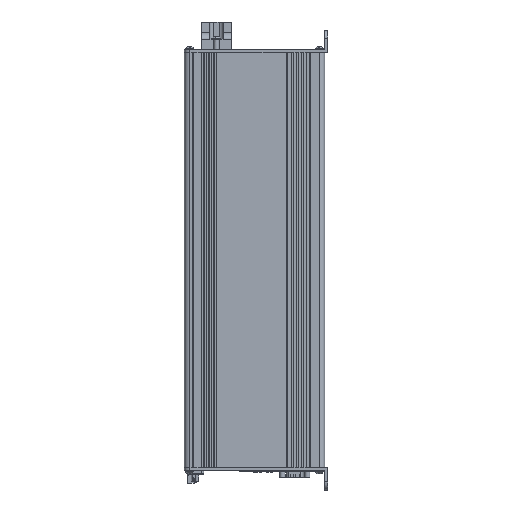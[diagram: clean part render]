
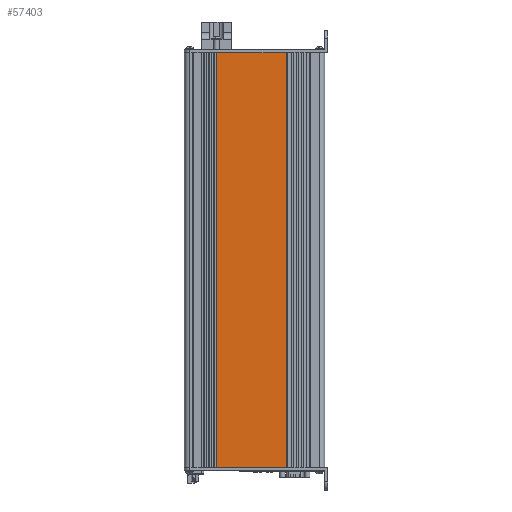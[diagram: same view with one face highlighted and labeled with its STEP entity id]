
A CAD part, left-side view. The second image highlights one B-rep face of the part: STEP entity #57403.
In plain terms, the highlighted planar face has unit normal (-1, 0, 0).
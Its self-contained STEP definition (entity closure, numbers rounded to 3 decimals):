
#7969=FACE_OUTER_BOUND('',#11005,.T.);
#11005=EDGE_LOOP('',(#50559,#50560,#50561,#50562));
#14969=LINE('',#109785,#19452);
#15279=LINE('',#110637,#19762);
#15494=LINE('',#111195,#19977);
#15495=LINE('',#111197,#19978);
#19452=VECTOR('',#72873,0.394);
#19762=VECTOR('',#73639,0.394);
#19977=VECTOR('',#74190,0.394);
#19978=VECTOR('',#74193,0.394);
#25704=VERTEX_POINT('',#109782);
#25705=VERTEX_POINT('',#109784);
#26018=VERTEX_POINT('',#110634);
#26019=VERTEX_POINT('',#110636);
#33692=EDGE_CURVE('',#25705,#25704,#14969,.T.);
#34123=EDGE_CURVE('',#26018,#26019,#15279,.T.);
#34406=EDGE_CURVE('',#25704,#26019,#15494,.T.);
#34407=EDGE_CURVE('',#25705,#26018,#15495,.T.);
#50559=ORIENTED_EDGE('',*,*,#33692,.T.);
#50560=ORIENTED_EDGE('',*,*,#34406,.T.);
#50561=ORIENTED_EDGE('',*,*,#34123,.F.);
#50562=ORIENTED_EDGE('',*,*,#34407,.F.);
#52742=PLANE('',#61638);
#57403=ADVANCED_FACE('',(#7969),#52742,.T.);
#61638=AXIS2_PLACEMENT_3D('',#111196,#74191,#74192);
#72873=DIRECTION('',(0.,-1.,0.));
#73639=DIRECTION('',(0.,-1.,0.));
#74190=DIRECTION('',(0.,0.,1.));
#74191=DIRECTION('center_axis',(-1.,0.,0.));
#74192=DIRECTION('ref_axis',(0.,-1.,0.));
#74193=DIRECTION('',(0.,0.,1.));
#109782=CARTESIAN_POINT('',(2.255,3.613,0.));
#109784=CARTESIAN_POINT('',(2.255,6.369,0.));
#109785=CARTESIAN_POINT('',(2.255,6.369,0.));
#110634=CARTESIAN_POINT('',(2.255,6.369,16.339));
#110636=CARTESIAN_POINT('',(2.255,3.613,16.339));
#110637=CARTESIAN_POINT('',(2.255,6.369,16.339));
#111195=CARTESIAN_POINT('',(2.255,3.613,0.));
#111196=CARTESIAN_POINT('Origin',(2.255,6.369,0.));
#111197=CARTESIAN_POINT('',(2.255,6.369,0.));
